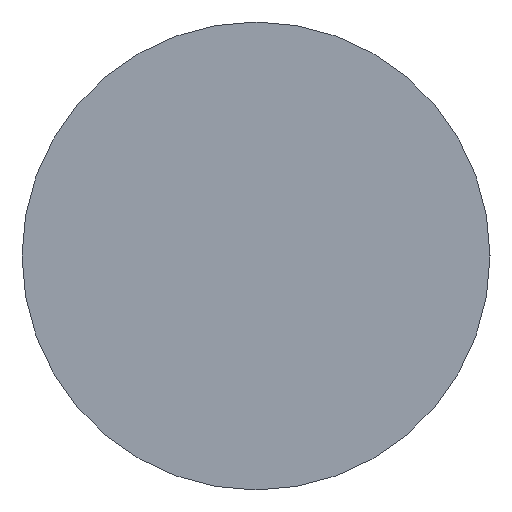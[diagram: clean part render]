
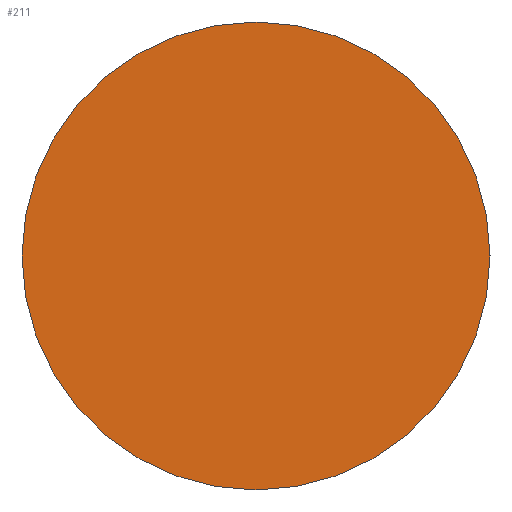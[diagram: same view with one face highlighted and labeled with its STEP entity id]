
A CAD part, left-side view. The second image highlights one B-rep face of the part: STEP entity #211.
In plain terms, the highlighted planar face has unit normal (-1, 0, 0).
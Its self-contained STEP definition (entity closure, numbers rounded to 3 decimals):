
#24 = AXIS2_PLACEMENT_3D ( 'NONE', #210, #48, #192 ) ;
#27 = ORIENTED_EDGE ( 'NONE', *, *, #164, .F. ) ;
#33 = AXIS2_PLACEMENT_3D ( 'NONE', #89, #45, #191 ) ;
#37 = EDGE_CURVE ( 'NONE', #126, #214, #113, .T. ) ;
#42 = ORIENTED_EDGE ( 'NONE', *, *, #37, .F. ) ;
#45 = DIRECTION ( 'NONE',  ( -1., 0., 0. ) ) ;
#48 = DIRECTION ( 'NONE',  ( 1., 0., 0. ) ) ;
#50 = AXIS2_PLACEMENT_3D ( 'NONE', #215, #56, #199 ) ;
#56 = DIRECTION ( 'NONE',  ( 1., 0., 0. ) ) ;
#88 = CIRCLE ( 'NONE', #24, 1.25 ) ;
#89 = CARTESIAN_POINT ( 'NONE',  ( 0., 0., 0. ) ) ;
#91 = EDGE_LOOP ( 'NONE', ( #42, #27 ) ) ;
#97 = CARTESIAN_POINT ( 'NONE',  ( 0., 1.25, 0. ) ) ;
#113 = CIRCLE ( 'NONE', #50, 1.25 ) ;
#117 = CARTESIAN_POINT ( 'NONE',  ( 0., -1.25, 0. ) ) ;
#126 = VERTEX_POINT ( 'NONE', #97 ) ;
#145 = PLANE ( 'NONE',  #33 ) ;
#164 = EDGE_CURVE ( 'NONE', #214, #126, #88, .T. ) ;
#191 = DIRECTION ( 'NONE',  ( 0., -1., 0. ) ) ;
#192 = DIRECTION ( 'NONE',  ( 0., 1., 0. ) ) ;
#199 = DIRECTION ( 'NONE',  ( 0., 1., 0. ) ) ;
#210 = CARTESIAN_POINT ( 'NONE',  ( 0., 0., 0. ) ) ;
#211 = ADVANCED_FACE ( 'NONE', ( #220 ), #145, .T. ) ;
#214 = VERTEX_POINT ( 'NONE', #117 ) ;
#215 = CARTESIAN_POINT ( 'NONE',  ( 0., 0., 0. ) ) ;
#220 = FACE_OUTER_BOUND ( 'NONE', #91, .T. ) ;
